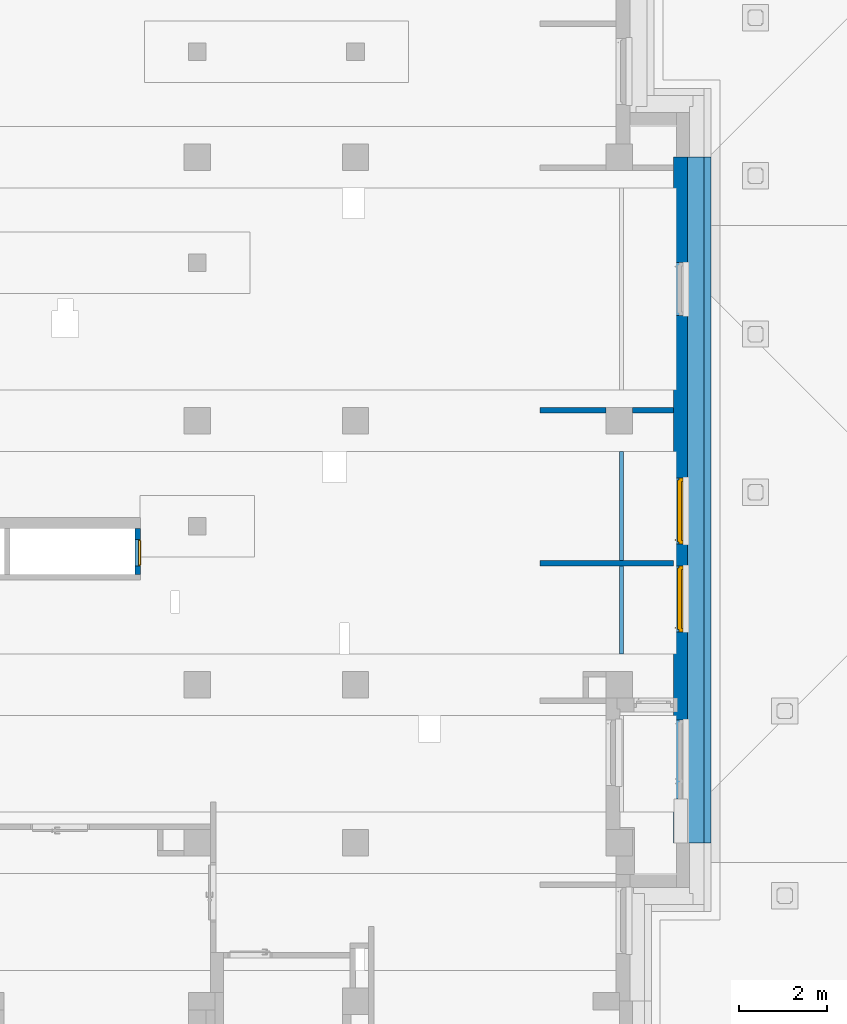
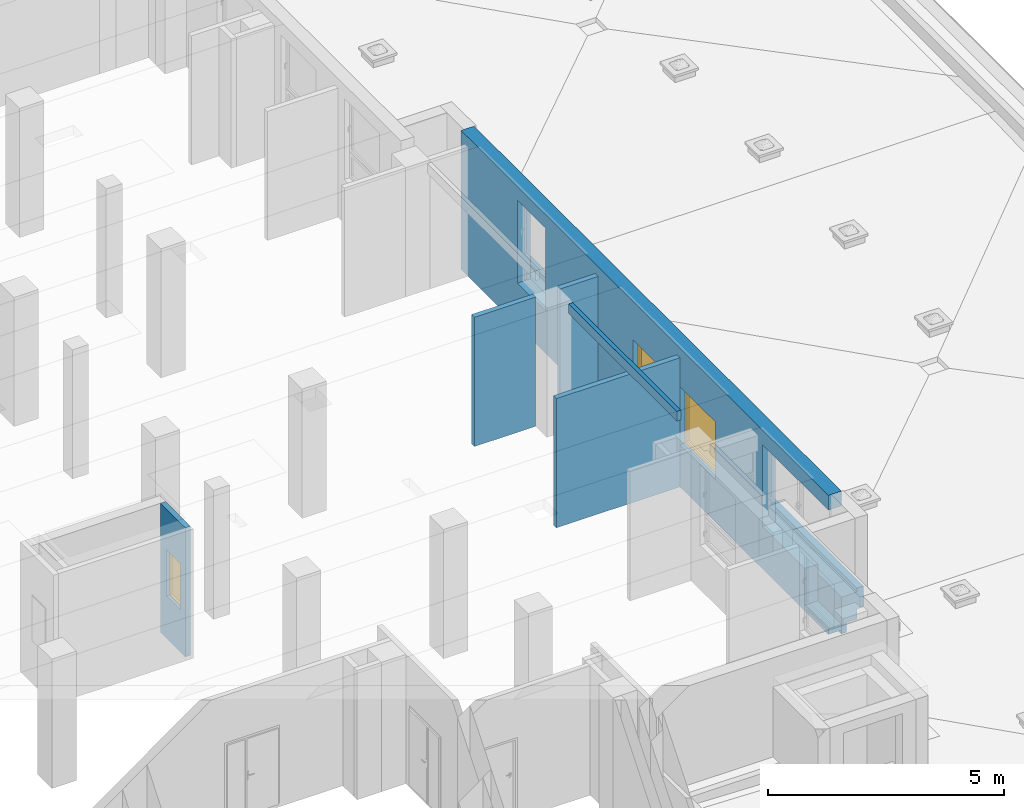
# One storey, part 25 of 50: 7 walls, 3 windows, 6 openings.
"""IFC4 building model written with IfcOpenShell, lengths in metres."""

from ifc_helpers import new_model, entity, si_unit, converted_unit, derived_unit, frame, frame_2d, origin, origin_with_axes, place, context, subcontext, project, spatial, polyline, rectangle, outline, extrude, clip, bounded_halfspace, closed_shell, open_shell, faceted_brep, surface_model, source, transform, mapped, material, layer, layer_set, layer_usage, element, fill, save


model = new_model("IFC4")

# Units and contexts
model_context = context("Model", 3, precision=1e-05, world=origin())
body_context = subcontext(model_context, "Body", "Model", "MODEL_VIEW")
ifc_project = project(units=[si_unit("LENGTHUNIT", "METRE"), si_unit("AREAUNIT", "SQUARE_METRE"), si_unit("VOLUMEUNIT", "CUBIC_METRE"), si_unit("MASSUNIT", "GRAM", prefix="KILO"), converted_unit("PLANEANGLEUNIT", "DEGREE", entity("IfcPlaneAngleMeasure", 0.0174532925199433), si_unit("PLANEANGLEUNIT", "RADIAN"), dimensions=[0, 0, 0, 0, 0, 0, 0]), derived_unit("THERMALTRANSMITTANCEUNIT", [(si_unit("POWERUNIT", "WATT"), 1), (si_unit("THERMODYNAMICTEMPERATUREUNIT", "KELVIN"), -1), (si_unit("LENGTHUNIT", "METRE"), -2)]), derived_unit("VOLUMETRICFLOWRATEUNIT", [(si_unit("LENGTHUNIT", "METRE"), 3), (converted_unit("TIMEUNIT", "hour", entity("IfcTimeMeasure", 3600.0), si_unit("TIMEUNIT", "SECOND"), dimensions=[0, 0, 1, 0, 0, 0, 0]), -1), (si_unit("LENGTHUNIT", "METRE"), -1)])], contexts=[model_context])

# Site, building, storey
site_placement = place(None, origin())
site = spatial("IfcSite", under=ifc_project, at=site_placement, Name="3. ASŘ", CompositionType="ELEMENT")
building_placement = place(site_placement, origin())
building = spatial("IfcBuilding", under=site, at=building_placement, Name="Pavilon C", CompositionType="ELEMENT")
storey_placement = place(building_placement, frame((0.0, 0.0, 3.6)))
storey = spatial("IfcBuildingStorey", under=building, at=storey_placement, Name="Půdorys 2.NP", CompositionType="ELEMENT", Elevation=3.6)

# Wall, openings, windows
ifc_material_1 = material(Name="PLYNOSILIKÁT")
ifc_layer_1 = layer(ifc_material_1, 0.32)
ifc_layer_set_1 = layer_set([ifc_layer_1])
ifc_layer_usage_1 = layer_usage(ifc_layer_set_1, "AXIS2", "POSITIVE", 0.0)
wall_1_placement = place(storey_placement, frame((51.5, 3.59999999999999, -0.1), z_axis=(0.0, 0.0, 1.0), x_axis=(0.0, 1.0, 0.0)))
wall_1 = element("IfcWall", 1, at=wall_1_placement, inside=storey, material=ifc_layer_usage_1, Name="PLYNOSILIKÁT", context=body_context, shape_type="SweptSolid", body=[
    extrude(rectangle(XDim=15.6, YDim=0.32, at=frame_2d((7.8, 0.16), x_axis=(1.0, 0.0))), origin_with_axes(), (0.0, 0.0, 1.0), 3.6),
])
opening_1_placement = place(wall_1_placement, frame((0.0, 0.0, 0.15), z_axis=(0.0, 1.0, 0.0), x_axis=(0.0, 0.0, 1.0)))
element("IfcOpeningElement", 2, at=opening_1_placement, cuts=wall_1, Name="Okenní otvor", ObjectType="Opening", context=body_context, shape_type="SweptSolid", body=[
    extrude(outline(polyline([(0.0, 1.0), (3.07, 1.0), (3.07, 0.0), (0.0, 0.0), (0.0, 1.0)])), origin_with_axes(), (0.0, 0.0, 1.0), 0.32),
])
opening_2_placement = place(wall_1_placement, frame((0.999999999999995, 0.0, 1.1), z_axis=(0.0, 1.0, 0.0), x_axis=(0.0, 0.0, 1.0)))
element("IfcOpeningElement", 3, at=opening_2_placement, cuts=wall_1, Name="Okenní otvor", ObjectType="Opening", context=body_context, shape_type="SweptSolid", body=[
    extrude(outline(polyline([(0.0, 1.8), (2.12, 1.8), (2.12, 0.0), (0.0, 0.0), (0.0, 1.8)])), origin_with_axes(), (0.0, 0.0, 1.0), 0.32),
])
opening_3_placement = place(wall_1_placement, frame((4.8, 0.0, 1.1), z_axis=(0.0, 1.0, 0.0), x_axis=(0.0, 0.0, 1.0)))
opening_3 = element("IfcOpeningElement", 4, at=opening_3_placement, cuts=wall_1, Name="Okenní otvor", ObjectType="Opening", context=body_context, shape_type="SweptSolid", body=[
    extrude(outline(polyline([(0.0, 1.5), (1.5, 1.5), (1.5, 0.0), (0.0, 0.0), (0.0, 1.5)])), origin_with_axes(), (0.0, 0.0, 1.0), 0.32),
])
opening_4_placement = place(wall_1_placement, frame((6.8, 0.0, 1.1), z_axis=(0.0, 1.0, 0.0), x_axis=(0.0, 0.0, 1.0)))
opening_4 = element("IfcOpeningElement", 5, at=opening_4_placement, cuts=wall_1, Name="Okenní otvor", ObjectType="Opening", context=body_context, shape_type="SweptSolid", body=[
    extrude(outline(polyline([(0.0, 1.5), (1.5, 1.5), (1.5, 0.0), (0.0, 0.0), (0.0, 1.5)])), origin_with_axes(), (0.0, 0.0, 1.0), 0.32),
])
opening_5_placement = place(wall_1_placement, frame((12.0, 0.0, 1.1), z_axis=(0.0, 1.0, 0.0), x_axis=(0.0, 0.0, 1.0)))
element("IfcOpeningElement", 6, at=opening_5_placement, cuts=wall_1, Name="Okenní otvor", ObjectType="Opening", context=body_context, shape_type="SweptSolid", body=[
    extrude(outline(polyline([(0.0, 1.2), (2.15, 1.2), (2.15, 0.0), (0.0, 0.0), (0.0, 1.2)])), origin_with_axes(), (0.0, 0.0, 1.0), 0.32),
])
shared_shape_1 = source(origin_with_axes(), body_context, "Body", "SurfaceModel", [
    surface_model("IfcShellBasedSurfaceModel", [(0.0, 0.182, 1.5), (0.0, 0.182, -5.63337527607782e-18), (0.08, 0.182, -5.63337527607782e-18), (0.08, 0.182, 1.5), (0.0, 0.0899999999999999, 5.63337527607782e-18), (0.0, 0.0900000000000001, 1.5), (0.08, 0.0900000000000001, 1.5), (0.08, 0.0899999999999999, 5.63337527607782e-18)], [closed_shell([[[0, 1, 2, 3]], [[4, 5, 6, 7]], [[1, 0, 5, 4]], [[2, 1, 4, 7]], [[3, 2, 7, 6]], [[0, 3, 6, 5]]], orient=[[False], [False], [False], [False], [False], [False]])]),
    surface_model("IfcShellBasedSurfaceModel", [(1.42, 0.182, 1.5), (1.42, 0.182, -5.63337527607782e-18), (1.5, 0.182, -5.63337527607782e-18), (1.5, 0.182, 1.5), (1.42, 0.0899999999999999, 5.63337527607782e-18), (1.42, 0.0900000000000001, 1.5), (1.5, 0.0900000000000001, 1.5), (1.5, 0.0899999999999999, 5.63337527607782e-18)], [closed_shell([[[0, 1, 2, 3]], [[4, 5, 6, 7]], [[1, 0, 5, 4]], [[2, 1, 4, 7]], [[3, 2, 7, 6]], [[0, 3, 6, 5]]], orient=[[False], [False], [False], [False], [False], [False]])]),
    surface_model("IfcShellBasedSurfaceModel", [(0.08, 0.182, 0.08), (0.08, 0.182, -5.63337527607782e-18), (1.42, 0.182, -5.63337527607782e-18), (1.42, 0.182, 0.08), (0.08, 0.0899999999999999, 5.63337527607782e-18), (0.08, 0.0899999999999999, 0.08), (1.42, 0.0899999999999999, 0.08), (1.42, 0.0899999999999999, 5.63337527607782e-18)], [closed_shell([[[0, 1, 2, 3]], [[4, 5, 6, 7]], [[1, 0, 5, 4]], [[2, 1, 4, 7]], [[3, 2, 7, 6]], [[0, 3, 6, 5]]], orient=[[False], [False], [False], [False], [False], [False]])]),
    surface_model("IfcShellBasedSurfaceModel", [(0.08, 0.182, 1.5), (0.08, 0.182, 1.42), (1.42, 0.182, 1.42), (1.42, 0.182, 1.5), (0.08, 0.0900000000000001, 1.42), (0.08, 0.0900000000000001, 1.5), (1.42, 0.0900000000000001, 1.5), (1.42, 0.0900000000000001, 1.42)], [closed_shell([[[0, 1, 2, 3]], [[4, 5, 6, 7]], [[1, 0, 5, 4]], [[2, 1, 4, 7]], [[3, 2, 7, 6]], [[0, 3, 6, 5]]], orient=[[False], [False], [False], [False], [False], [False]])]),
    surface_model("IfcShellBasedSurfaceModel", [(0.05, 0.145, 1.45), (0.05, 0.145, 0.05), (0.13, 0.145, 0.05), (0.13, 0.145, 1.45), (0.05, 0.0599999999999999, 0.05), (0.05, 0.0600000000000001, 1.45), (0.13, 0.0600000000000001, 1.45), (0.13, 0.0599999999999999, 0.05)], [closed_shell([[[0, 1, 2, 3]], [[4, 5, 6, 7]], [[1, 0, 5, 4]], [[2, 1, 4, 7]], [[3, 2, 7, 6]], [[0, 3, 6, 5]]], orient=[[False], [False], [False], [False], [False], [False]])]),
    surface_model("IfcShellBasedSurfaceModel", [(1.37, 0.145, 1.45), (1.37, 0.145, 0.05), (1.45, 0.145, 0.05), (1.45, 0.145, 1.45), (1.37, 0.0599999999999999, 0.05), (1.37, 0.0600000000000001, 1.45), (1.45, 0.0600000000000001, 1.45), (1.45, 0.0599999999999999, 0.05)], [closed_shell([[[0, 1, 2, 3]], [[4, 5, 6, 7]], [[1, 0, 5, 4]], [[2, 1, 4, 7]], [[3, 2, 7, 6]], [[0, 3, 6, 5]]], orient=[[False], [False], [False], [False], [False], [False]])]),
    surface_model("IfcShellBasedSurfaceModel", [(0.13, 0.145, 0.13), (0.13, 0.145, 0.05), (1.37, 0.145, 0.05), (1.37, 0.145, 0.13), (0.13, 0.0599999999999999, 0.05), (0.13, 0.0599999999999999, 0.13), (1.37, 0.0599999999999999, 0.13), (1.37, 0.0599999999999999, 0.05)], [closed_shell([[[0, 1, 2, 3]], [[4, 5, 6, 7]], [[1, 0, 5, 4]], [[2, 1, 4, 7]], [[3, 2, 7, 6]], [[0, 3, 6, 5]]], orient=[[False], [False], [False], [False], [False], [False]])]),
    surface_model("IfcShellBasedSurfaceModel", [(0.13, 0.145, 1.45), (0.13, 0.145, 1.37), (1.37, 0.145, 1.37), (1.37, 0.145, 1.45), (0.13, 0.0600000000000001, 1.37), (0.13, 0.0600000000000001, 1.45), (1.37, 0.0600000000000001, 1.45), (1.37, 0.0600000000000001, 1.37)], [closed_shell([[[0, 1, 2, 3]], [[4, 5, 6, 7]], [[1, 0, 5, 4]], [[2, 1, 4, 7]], [[3, 2, 7, 6]], [[0, 3, 6, 5]]], orient=[[False], [False], [False], [False], [False], [False]])]),
    surface_model("IfcShellBasedSurfaceModel", [(1.3975, 0.06, 0.77), (1.3975, 0.06, 0.73), (1.4225, 0.06, 0.73), (1.4225, 0.06, 0.77), (1.3975, 0.05, 0.73), (1.3975, 0.05, 0.77), (1.4225, 0.05, 0.77), (1.4225, 0.05, 0.73)], [closed_shell([[[0, 1, 2, 3]], [[4, 5, 6, 7]], [[1, 0, 5, 4]], [[2, 1, 4, 7]], [[3, 2, 7, 6]], [[0, 3, 6, 5]]], orient=[[False], [False], [False], [False], [False], [False]])]),
    surface_model("IfcShellBasedSurfaceModel", [(1.42, 0.05, 0.75), (1.41866025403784, 0.05, 0.755), (1.415, 0.05, 0.758660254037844), (1.41, 0.05, 0.76), (1.405, 0.05, 0.758660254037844), (1.40133974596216, 0.05, 0.755), (1.4, 0.05, 0.75), (1.40133974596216, 0.05, 0.745), (1.405, 0.05, 0.741339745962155), (1.41, 0.05, 0.74), (1.415, 0.05, 0.741339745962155), (1.41866025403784, 0.05, 0.745), (1.42, 0.01, 0.75), (1.41866025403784, 0.00500000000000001, 0.755), (1.415, 0.00133974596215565, 0.758660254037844), (1.41, 2.8421709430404e-17, 0.76), (1.405, 0.00133974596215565, 0.758660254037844), (1.40133974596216, 0.00500000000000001, 0.755), (1.4, 0.01, 0.75), (1.40133974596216, 0.015, 0.745), (1.405, 0.0186602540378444, 0.741339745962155), (1.41, 0.02, 0.74), (1.415, 0.0186602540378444, 0.741339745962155), (1.41866025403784, 0.015, 0.745), (1.42, 0.01, 0.635), (1.41866025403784, 0.005, 0.635), (1.415, 0.00133974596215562, 0.635), (1.41, 0.0, 0.635), (1.405, 0.00133974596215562, 0.635), (1.40133974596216, 0.005, 0.635), (1.4, 0.01, 0.635), (1.40133974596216, 0.015, 0.635), (1.405, 0.0186602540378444, 0.635), (1.41, 0.02, 0.635), (1.415, 0.0186602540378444, 0.635), (1.41866025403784, 0.015, 0.635)], [open_shell([[[0, 1, 2, 3, 4, 5, 6, 7, 8, 9, 10, 11]], [[0, 12, 13, 1]], [[1, 13, 14, 2]], [[2, 14, 15, 3]], [[3, 15, 16, 4]], [[4, 16, 17, 5]], [[5, 17, 18, 6]], [[6, 18, 19, 7]], [[7, 19, 20, 8]], [[8, 20, 21, 9]], [[9, 21, 22, 10]], [[10, 22, 23, 11]], [[11, 23, 12, 0]], [[12, 24, 25, 13]], [[13, 25, 26, 14]], [[14, 26, 27, 15]], [[15, 27, 28, 16]], [[16, 28, 29, 17]], [[17, 29, 30, 18]], [[18, 30, 31, 19]], [[19, 31, 32, 20]], [[20, 32, 33, 21]], [[21, 33, 34, 22]], [[22, 34, 35, 23]], [[23, 35, 24, 12]]], orient=[[False], [False], [False], [False], [False], [False], [False], [False], [False], [False], [False], [False], [False], [False], [False], [False], [False], [False], [False], [False], [False], [False], [False], [False], [False]])]),
    surface_model("IfcShellBasedSurfaceModel", [(0.13, 0.1025, 0.13), (1.37, 0.1025, 0.13), (1.37, 0.1025, 1.37), (0.13, 0.1025, 1.37)], [open_shell([[[0, 1, 2, 3]]], orient=[[False]])]),
])
window_1_placement = place(opening_3_placement, frame((0.0, 1.5, 0.282000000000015), z_axis=(1.0, 0.0, 0.0), x_axis=(0.0, -1.0, 2.44929359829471e-16)))
window_1 = element("IfcWindow", 7, at=window_1_placement, inside=storey, Name="O06", OverallHeight=1.5, OverallWidth=1.5, PartitioningType="USERDEFINED", PredefinedType="WINDOW", context=body_context, shape_type="MappedRepresentation", body=[
    mapped(shared_shape_1, transform((0.0, 0.0, 0.0), x_axis=(1.0, 0.0, 0.0), y_axis=(0.0, 1.0, 0.0), z_axis=(0.0, 0.0, 1.0), scale=1.0)),
])
fill(opening_3, window_1)
window_2_placement = place(opening_4_placement, frame((0.0, 1.5, 0.282000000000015), z_axis=(1.0, 0.0, 0.0), x_axis=(0.0, -1.0, 2.44929359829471e-16)))
window_2 = element("IfcWindow", 8, at=window_2_placement, inside=storey, Name="O06", OverallHeight=1.5, OverallWidth=1.5, PartitioningType="USERDEFINED", PredefinedType="WINDOW", context=body_context, shape_type="MappedRepresentation", body=[
    mapped(shared_shape_1, transform((0.0, 0.0, 0.0), x_axis=(1.0, 0.0, 0.0), y_axis=(0.0, 1.0, 0.0), z_axis=(0.0, 0.0, 1.0), scale=1.0)),
])
fill(opening_4, window_2)

# Wall, opening, window
ifc_material_2 = material(Name="ZDIVO Z CDm")
ifc_layer_2 = layer(ifc_material_2, 0.125)
ifc_layer_set_2 = layer_set([ifc_layer_2])
ifc_layer_usage_2 = layer_usage(ifc_layer_set_2, "AXIS2", "POSITIVE", 0.0)
wall_2_placement = place(storey_placement, frame((38.9375, 10.75, -0.1), z_axis=(0.0, 0.0, 1.0), x_axis=(0.0, -1.0, 0.0)))
wall_2 = element("IfcWall", 9, at=wall_2_placement, inside=storey, material=ifc_layer_usage_2, Name="ZDIVO Z CDm", context=body_context, shape_type="SweptSolid", body=[
    extrude(rectangle(XDim=1.05, YDim=0.125, at=frame_2d((0.525, 0.0625), x_axis=(1.0, 0.0))), origin_with_axes(), (0.0, 0.0, 1.0), 3.35),
])
opening_6_placement = place(wall_2_placement, frame((0.850000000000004, 0.125, 1.1), z_axis=(0.0, -1.0, 0.0), x_axis=(0.0, 0.0, 1.0)))
opening_6 = element("IfcOpeningElement", 10, at=opening_6_placement, cuts=wall_2, Name="Okenní otvor", ObjectType="Opening", context=body_context, shape_type="SweptSolid", body=[
    extrude(outline(polyline([(0.0, 0.6), (1.2, 0.6), (1.2, 0.0), (0.0, 0.0), (0.0, 0.6)])), origin_with_axes(), (0.0, 0.0, 1.0), 0.125),
])
shared_shape_2 = source(origin_with_axes(), body_context, "Body", "Brep", [
    faceted_brep([(0.0, 0.0600000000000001, 1.2), (0.0, 0.06, 4.91096680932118e-19), (0.02, 0.06, 4.91096680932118e-19), (0.02, 0.0600000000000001, 1.2), (0.0, 0.01, 6.61433067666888e-18), (0.0, 0.0100000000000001, 1.2), (0.02, 0.0100000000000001, 1.2), (0.02, 0.01, 6.61433067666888e-18)], [[[0, 1, 2, 3]], [[4, 5, 6, 7]], [[1, 0, 5, 4]], [[2, 1, 4, 7]], [[3, 2, 7, 6]], [[0, 3, 6, 5]]], orient=[[False], [False], [False], [False], [False], [False]]),
    faceted_brep([(0.58, 0.0600000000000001, 1.2), (0.58, 0.06, 4.91096680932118e-19), (0.6, 0.06, 4.91096680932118e-19), (0.6, 0.0600000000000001, 1.2), (0.58, 0.01, 6.61433067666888e-18), (0.58, 0.0100000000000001, 1.2), (0.6, 0.0100000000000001, 1.2), (0.6, 0.01, 6.61433067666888e-18)], [[[0, 1, 2, 3]], [[4, 5, 6, 7]], [[1, 0, 5, 4]], [[2, 1, 4, 7]], [[3, 2, 7, 6]], [[0, 3, 6, 5]]], orient=[[False], [False], [False], [False], [False], [False]]),
    faceted_brep([(0.02, 0.06, 0.02), (0.02, 0.06, 4.91096680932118e-19), (0.58, 0.06, 4.91096680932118e-19), (0.58, 0.06, 0.02), (0.02, 0.01, 6.61433067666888e-18), (0.02, 0.01, 0.02), (0.58, 0.01, 0.02), (0.58, 0.01, 6.61433067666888e-18)], [[[0, 1, 2, 3]], [[4, 5, 6, 7]], [[1, 0, 5, 4]], [[2, 1, 4, 7]], [[3, 2, 7, 6]], [[0, 3, 6, 5]]], orient=[[False], [False], [False], [False], [False], [False]]),
    faceted_brep([(0.02, 0.0600000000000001, 1.2), (0.02, 0.0600000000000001, 1.18), (0.58, 0.0600000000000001, 1.18), (0.58, 0.0600000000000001, 1.2), (0.02, 0.0100000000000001, 1.18), (0.02, 0.0100000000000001, 1.2), (0.58, 0.0100000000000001, 1.2), (0.58, 0.0100000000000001, 1.18)], [[[0, 1, 2, 3]], [[4, 5, 6, 7]], [[1, 0, 5, 4]], [[2, 1, 4, 7]], [[3, 2, 7, 6]], [[0, 3, 6, 5]]], orient=[[False], [False], [False], [False], [False], [False]]),
    faceted_brep([(0.02, 0.0100000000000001, 1.18), (0.02, 0.01, 0.02), (0.58, 0.01, 0.02), (0.58, 0.0100000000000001, 1.18), (0.02, 0.0, 0.02), (0.02, 1.4210854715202e-16, 1.18), (0.58, 1.4210854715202e-16, 1.18), (0.58, 0.0, 0.02)], [[[0, 1, 2, 3]], [[4, 5, 6, 7]], [[1, 0, 5, 4]], [[2, 1, 4, 7]], [[3, 2, 7, 6]], [[0, 3, 6, 5]]], orient=[[False], [False], [False], [False], [False], [False]]),
])
window_3_placement = place(opening_6_placement, frame((0.0, -3.63797880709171e-15, -0.00999999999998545), z_axis=(1.0, 0.0, 0.0), x_axis=(0.0, 1.0, -1.22464679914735e-16)))
window_3 = element("IfcWindow", 11, at=window_3_placement, inside=storey, Name="O01", OverallHeight=1.2, OverallWidth=0.6, PartitioningType="USERDEFINED", PredefinedType="WINDOW", context=body_context, shape_type="MappedRepresentation", body=[
    mapped(shared_shape_2, transform((0.0, 0.0, 0.0), x_axis=(1.0, 0.0, 0.0), y_axis=(0.0, 1.0, 0.0), z_axis=(0.0, 0.0, 1.0), scale=1.0)),
])
fill(opening_6, window_3)

# Walls
ifc_material_3 = material(Name="ZDIVO Z CDm")
ifc_layer_3 = layer(ifc_material_3, 0.125)
ifc_layer_set_3 = layer_set([ifc_layer_3])
ifc_layer_usage_3 = layer_usage(ifc_layer_set_3, "AXIS2", "POSITIVE", 0.0)
wall_3_placement = place(storey_placement, frame((49.65, 13.5, -0.1), z_axis=(0.0, 0.0, 1.0), x_axis=(-1.0, 0.0, 0.0)))
element("IfcWall", 12, at=wall_3_placement, inside=storey, material=ifc_layer_usage_3, Name="ZDIVO Z CDm", context=body_context, shape_type="SweptSolid", body=[
    extrude(rectangle(XDim=1.5, YDim=0.125, at=frame_2d((0.75, 0.0625), x_axis=(1.0, 0.0))), origin_with_axes(), (0.0, 0.0, 1.0), 3.35),
])
ifc_material_4 = material(Name="ZDIVO Z CDm")
ifc_layer_4 = layer(ifc_material_4, 0.125)
ifc_layer_set_4 = layer_set([ifc_layer_4])
ifc_layer_usage_4 = layer_usage(ifc_layer_set_4, "AXIS2", "POSITIVE", 0.0)
wall_4_placement = place(storey_placement, frame((51.18, 13.5, -0.1), z_axis=(0.0, 0.0, 1.0), x_axis=(-1.0, 0.0, 0.0)))
element("IfcWall", 13, at=wall_4_placement, inside=storey, material=ifc_layer_usage_4, Name="ZDIVO Z CDm", context=body_context, shape_type="SweptSolid", body=[
    extrude(rectangle(XDim=0.93, YDim=0.125, at=frame_2d((0.465, 0.0625), x_axis=(1.0, 0.0))), origin_with_axes(), (0.0, 0.0, 1.0), 3.35),
])
ifc_material_5 = material(Name="ZDIVO Z CDm")
ifc_layer_5 = layer(ifc_material_5, 0.125)
ifc_layer_set_5 = layer_set([ifc_layer_5])
ifc_layer_usage_5 = layer_usage(ifc_layer_set_5, "AXIS2", "POSITIVE", 0.0)
wall_5_placement = place(storey_placement, frame((51.18, 10.025, -0.1), z_axis=(0.0, 0.0, 1.0), x_axis=(-1.0, 0.0, 0.0)))
element("IfcWall", 14, at=wall_5_placement, inside=storey, material=ifc_layer_usage_5, Name="ZDIVO Z CDm", context=body_context, shape_type="SweptSolid", body=[
    extrude(rectangle(XDim=3.03, YDim=0.125, at=frame_2d((1.515, 0.0625), x_axis=(1.0, 0.0))), origin_with_axes(), (0.0, 0.0, 1.0), 3.35),
])
ifc_material_6 = material(Name="EPS")
ifc_layer_6 = layer(ifc_material_6, 0.1)
ifc_layer_set_6 = layer_set([ifc_layer_6])
ifc_layer_usage_6 = layer_usage(ifc_layer_set_6, "AXIS2", "POSITIVE", 0.0)
wall_6_placement = place(storey_placement, frame((49.95, 12.5, 3.25), z_axis=(0.0, 0.0, 1.0), x_axis=(0.0, -1.0, 0.0)))
element("IfcWall", 15, at=wall_6_placement, inside=storey, material=ifc_layer_usage_6, Name="EPS", context=body_context, shape_type="SweptSolid", body=[
    extrude(rectangle(XDim=4.6, YDim=0.1, at=frame_2d((2.3, 0.05), x_axis=(1.0, 0.0))), origin_with_axes(), (0.0, 0.0, 1.0), 0.25),
])
ifc_material_7 = material(Name="EPS")
ifc_layer_7 = layer(ifc_material_7, 0.13)
ifc_material_8 = material(Name="ZELEZOBETONOVÁ KCE")
ifc_layer_8 = layer(ifc_material_8, 0.25)
ifc_material_9 = material(Name="MINERÁLNÍ VATA")
ifc_layer_9 = layer(ifc_material_9, 0.16)
ifc_layer_set_7 = layer_set([ifc_layer_7, ifc_layer_8, ifc_layer_9])
ifc_layer_usage_7 = layer_usage(ifc_layer_set_7, "AXIS2", "POSITIVE", -0.13)
wall_7_placement = place(storey_placement, frame((51.5, 19.2, -0.2), z_axis=(0.0, 0.0, 1.0), x_axis=(0.0, -1.0, 0.0)))
element("IfcWall", 16, at=wall_7_placement, inside=storey, material=ifc_layer_usage_7, Name="MINERÁLNÍ VATA", context=body_context, shape_type="Clipping", body=[
    clip(clip(clip(extrude(rectangle(XDim=15.6, YDim=0.54, at=frame_2d((7.8, 0.27), x_axis=(1.0, 0.0))), origin_with_axes(), (0.0, 0.0, 1.0), 1.05), bounded_halfspace(frame((7.8, 0.255, 0.25), z_axis=(0.0, 0.0, 1.0), x_axis=(0.0, -1.0, 0.0)), True, origin_with_axes(), polyline([(0.0, 0.38), (0.0, 0.13), (15.6, 0.13), (15.6, 0.38), (0.0, 0.38)]))), bounded_halfspace(frame((7.8, 0.46, 0.51), z_axis=(0.0, 0.0, 1.0), x_axis=(0.0, -1.0, 0.0)), True, origin_with_axes(), polyline([(0.0, 0.54), (0.0, 0.38), (15.6, 0.38), (15.6, 0.54), (0.0, 0.54)]))), bounded_halfspace(frame((7.8, 0.19, 0.95), z_axis=(0.0, 0.0, -1.0), x_axis=(1.0, 0.0, 0.0)), True, origin_with_axes(), polyline([(0.0, 0.0), (15.6, 0.0), (15.6, 0.38), (0.0, 0.38), (0.0, 0.0)]))),
])

save(model, "model.ifc")
